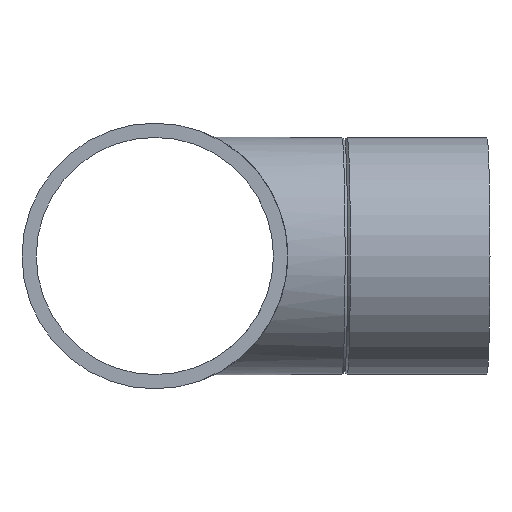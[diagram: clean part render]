
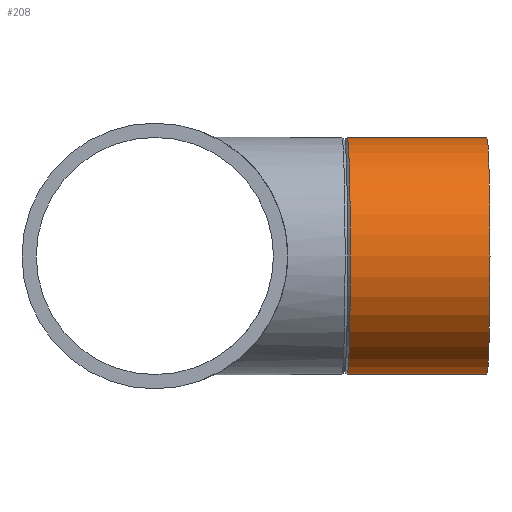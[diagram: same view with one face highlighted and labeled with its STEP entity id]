
A CAD part, front view. The second image highlights one B-rep face of the part: STEP entity #208.
In plain terms, the highlighted cylindrical face has radius 25 mm (diameter 50 mm), a full revolution.
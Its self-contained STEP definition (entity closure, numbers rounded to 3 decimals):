
#21=CYLINDRICAL_SURFACE($,#238,25.);
#35=FACE_BOUND($,#80,.T.);
#56=FACE_OUTER_BOUND($,#79,.T.);
#79=EDGE_LOOP($,(#162));
#80=EDGE_LOOP($,(#163));
#97=CIRCLE($,#226,25.);
#103=CIRCLE($,#239,25.);
#113=VERTEX_POINT($,#394);
#120=VERTEX_POINT($,#480);
#130=EDGE_CURVE($,#113,#113,#97,.T.);
#137=EDGE_CURVE($,#120,#120,#103,.T.);
#162=ORIENTED_EDGE($,*,*,#130,.T.);
#163=ORIENTED_EDGE($,*,*,#137,.T.);
#208=ADVANCED_FACE($,(#56,#35),#21,.T.);
#226=AXIS2_PLACEMENT_3D($,#395,#268,#269);
#238=AXIS2_PLACEMENT_3D($,#479,#292,#293);
#239=AXIS2_PLACEMENT_3D($,#481,#294,#295);
#268=DIRECTION('center_axis',(1.,0.026,0.));
#269=DIRECTION('ref_axis',(0.026,-1.,0.));
#292=DIRECTION('center_axis',(-1.,-0.026,0.));
#293=DIRECTION('ref_axis',(0.026,-1.,0.));
#294=DIRECTION('center_axis',(-1.,-0.026,0.));
#295=DIRECTION('ref_axis',(0.026,-1.,0.));
#394=CARTESIAN_POINT('',(41.201,81.07,0.));
#395=CARTESIAN_POINT('Origin',(40.546,106.062,0.));
#479=CARTESIAN_POINT('Origin',(69.976,106.832,0.));
#480=CARTESIAN_POINT('',(69.322,131.824,0.));
#481=CARTESIAN_POINT('Origin',(69.976,106.832,0.));
